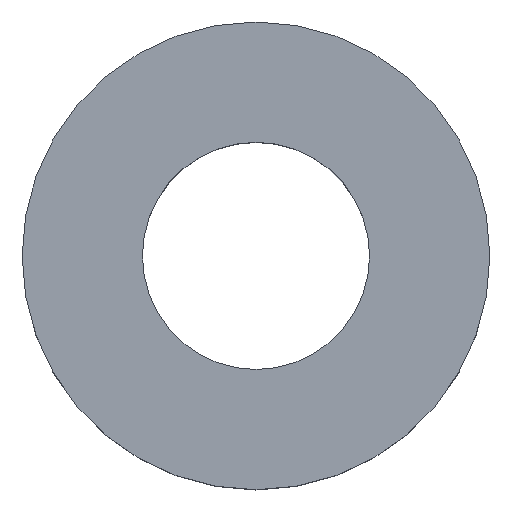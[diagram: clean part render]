
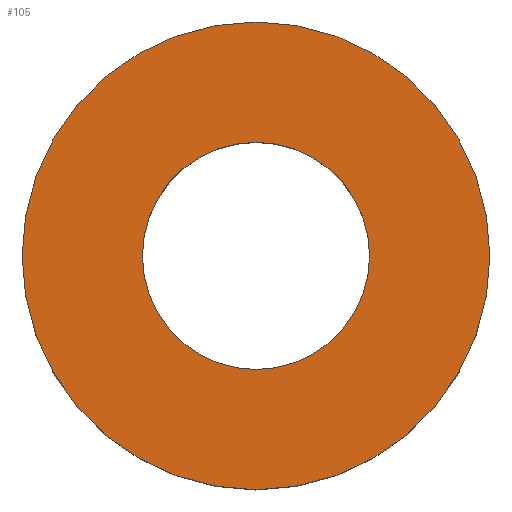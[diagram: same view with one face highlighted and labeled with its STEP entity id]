
A CAD part, top view. The second image highlights one B-rep face of the part: STEP entity #105.
In plain terms, the highlighted planar face has unit normal (0, 0, 1).
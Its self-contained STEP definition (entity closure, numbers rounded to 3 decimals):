
#21 = EDGE_CURVE('',#22,#22,#24,.T.);
#22 = VERTEX_POINT('',#23);
#23 = CARTESIAN_POINT('',(3.5,0.,2.));
#24 = SURFACE_CURVE('',#25,(#30,#42),.PCURVE_S1.);
#25 = CIRCLE('',#26,3.5);
#26 = AXIS2_PLACEMENT_3D('',#27,#28,#29);
#27 = CARTESIAN_POINT('',(0.,0.,2.));
#28 = DIRECTION('',(0.,0.,1.));
#29 = DIRECTION('',(1.,0.,-0.));
#30 = PCURVE('',#31,#36);
#31 = CYLINDRICAL_SURFACE('',#32,3.5);
#32 = AXIS2_PLACEMENT_3D('',#33,#34,#35);
#33 = CARTESIAN_POINT('',(0.,0.,0.));
#34 = DIRECTION('',(0.,0.,1.));
#35 = DIRECTION('',(1.,0.,-0.));
#36 = DEFINITIONAL_REPRESENTATION('',(#37),#41);
#37 = LINE('',#38,#39);
#38 = CARTESIAN_POINT('',(0.,2.));
#39 = VECTOR('',#40,1.);
#40 = DIRECTION('',(1.,0.));
#41 = ( GEOMETRIC_REPRESENTATION_CONTEXT(2) 
PARAMETRIC_REPRESENTATION_CONTEXT() REPRESENTATION_CONTEXT('2D SPACE',''
  ) );
#42 = PCURVE('',#43,#48);
#43 = PLANE('',#44);
#44 = AXIS2_PLACEMENT_3D('',#45,#46,#47);
#45 = CARTESIAN_POINT('',(0.,0.,2.));
#46 = DIRECTION('',(0.,0.,1.));
#47 = DIRECTION('',(1.,0.,-0.));
#48 = DEFINITIONAL_REPRESENTATION('',(#49),#53);
#49 = CIRCLE('',#50,3.5);
#50 = AXIS2_PLACEMENT_2D('',#51,#52);
#51 = CARTESIAN_POINT('',(0.,0.));
#52 = DIRECTION('',(1.,0.));
#53 = ( GEOMETRIC_REPRESENTATION_CONTEXT(2) 
PARAMETRIC_REPRESENTATION_CONTEXT() REPRESENTATION_CONTEXT('2D SPACE',''
  ) );
#105 = ADVANCED_FACE('',(#106,#109),#43,.T.);
#106 = FACE_BOUND('',#107,.T.);
#107 = EDGE_LOOP('',(#108));
#108 = ORIENTED_EDGE('',*,*,#21,.T.);
#109 = FACE_BOUND('',#110,.T.);
#110 = EDGE_LOOP('',(#111));
#111 = ORIENTED_EDGE('',*,*,#112,.F.);
#112 = EDGE_CURVE('',#113,#113,#115,.T.);
#113 = VERTEX_POINT('',#114);
#114 = CARTESIAN_POINT('',(1.7,0.,2.));
#115 = SURFACE_CURVE('',#116,(#121,#128),.PCURVE_S1.);
#116 = CIRCLE('',#117,1.7);
#117 = AXIS2_PLACEMENT_3D('',#118,#119,#120);
#118 = CARTESIAN_POINT('',(0.,0.,2.));
#119 = DIRECTION('',(0.,0.,1.));
#120 = DIRECTION('',(1.,0.,-0.));
#121 = PCURVE('',#43,#122);
#122 = DEFINITIONAL_REPRESENTATION('',(#123),#127);
#123 = CIRCLE('',#124,1.7);
#124 = AXIS2_PLACEMENT_2D('',#125,#126);
#125 = CARTESIAN_POINT('',(0.,0.));
#126 = DIRECTION('',(1.,0.));
#127 = ( GEOMETRIC_REPRESENTATION_CONTEXT(2) 
PARAMETRIC_REPRESENTATION_CONTEXT() REPRESENTATION_CONTEXT('2D SPACE',''
  ) );
#128 = PCURVE('',#129,#134);
#129 = CYLINDRICAL_SURFACE('',#130,1.7);
#130 = AXIS2_PLACEMENT_3D('',#131,#132,#133);
#131 = CARTESIAN_POINT('',(0.,0.,-1.));
#132 = DIRECTION('',(0.,0.,1.));
#133 = DIRECTION('',(1.,0.,-0.));
#134 = DEFINITIONAL_REPRESENTATION('',(#135),#139);
#135 = LINE('',#136,#137);
#136 = CARTESIAN_POINT('',(0.,3.));
#137 = VECTOR('',#138,1.);
#138 = DIRECTION('',(1.,0.));
#139 = ( GEOMETRIC_REPRESENTATION_CONTEXT(2) 
PARAMETRIC_REPRESENTATION_CONTEXT() REPRESENTATION_CONTEXT('2D SPACE',''
  ) );
